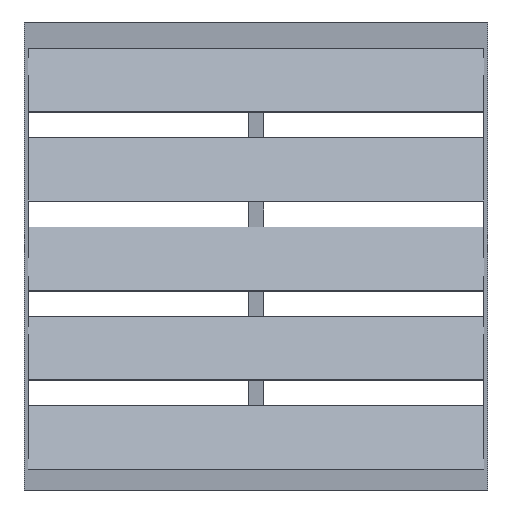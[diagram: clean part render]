
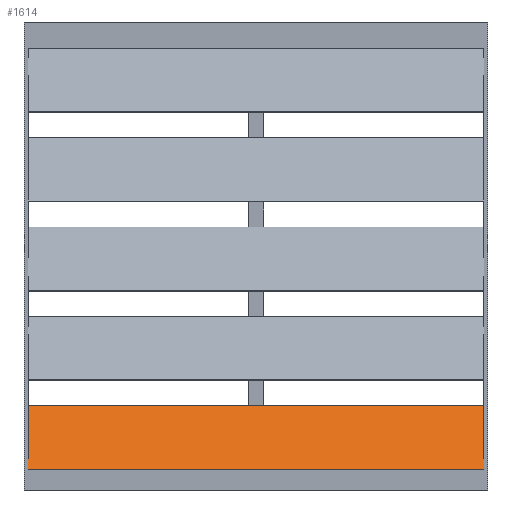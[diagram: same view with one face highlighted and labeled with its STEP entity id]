
A CAD part, front view. The second image highlights one B-rep face of the part: STEP entity #1614.
In plain terms, the highlighted planar face has unit normal (0, -0.707, 0.707).
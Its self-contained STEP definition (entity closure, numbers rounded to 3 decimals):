
#68=FACE_OUTER_BOUND('',#144,.T.);
#144=EDGE_LOOP('',(#1076,#1077,#1078,#1079,#1080,#1081,#1082,#1083));
#236=LINE('',#2247,#451);
#240=LINE('',#2254,#455);
#242=LINE('',#2259,#457);
#246=LINE('',#2266,#461);
#247=LINE('',#2268,#462);
#248=LINE('',#2270,#463);
#249=LINE('',#2271,#464);
#250=LINE('',#2272,#465);
#451=VECTOR('',#1813,10.);
#455=VECTOR('',#1819,10.);
#457=VECTOR('',#1823,10.);
#461=VECTOR('',#1829,10.);
#462=VECTOR('',#1832,10.);
#463=VECTOR('',#1835,10.);
#464=VECTOR('',#1836,10.);
#465=VECTOR('',#1837,10.);
#665=VERTEX_POINT('',#2244);
#666=VERTEX_POINT('',#2246);
#667=VERTEX_POINT('',#2250);
#668=VERTEX_POINT('',#2252);
#669=VERTEX_POINT('',#2256);
#670=VERTEX_POINT('',#2258);
#671=VERTEX_POINT('',#2262);
#672=VERTEX_POINT('',#2264);
#814=EDGE_CURVE('',#666,#665,#236,.T.);
#818=EDGE_CURVE('',#667,#668,#240,.T.);
#820=EDGE_CURVE('',#670,#669,#242,.T.);
#824=EDGE_CURVE('',#671,#672,#246,.T.);
#825=EDGE_CURVE('',#668,#670,#247,.T.);
#826=EDGE_CURVE('',#666,#669,#248,.T.);
#827=EDGE_CURVE('',#671,#665,#249,.T.);
#828=EDGE_CURVE('',#667,#672,#250,.T.);
#1076=ORIENTED_EDGE('',*,*,#825,.T.);
#1077=ORIENTED_EDGE('',*,*,#820,.T.);
#1078=ORIENTED_EDGE('',*,*,#826,.F.);
#1079=ORIENTED_EDGE('',*,*,#814,.T.);
#1080=ORIENTED_EDGE('',*,*,#827,.F.);
#1081=ORIENTED_EDGE('',*,*,#824,.T.);
#1082=ORIENTED_EDGE('',*,*,#828,.F.);
#1083=ORIENTED_EDGE('',*,*,#818,.T.);
#1546=PLANE('',#1698);
#1614=ADVANCED_FACE('',(#68),#1546,.T.);
#1698=AXIS2_PLACEMENT_3D('',#2269,#1833,#1834);
#1813=DIRECTION('',(-1.,0.,0.));
#1819=DIRECTION('',(0.,-0.707,-0.707));
#1823=DIRECTION('',(0.,0.707,0.707));
#1829=DIRECTION('',(-1.,0.,0.));
#1832=DIRECTION('',(1.,0.,0.));
#1833=DIRECTION('center_axis',(0.,-0.707,
0.707));
#1834=DIRECTION('ref_axis',(1.,0.,0.));
#1835=DIRECTION('',(0.,-0.707,-0.707));
#1836=DIRECTION('',(1.,0.,0.));
#1837=DIRECTION('',(0.,0.707,0.707));
#2244=CARTESIAN_POINT('',(14.6,0.,-283.5));
#2246=CARTESIAN_POINT('',(431.,0.,-283.5));
#2247=CARTESIAN_POINT('',(431.,0.,-283.5));
#2250=CARTESIAN_POINT('',(-431.,-20.,-303.5));
#2252=CARTESIAN_POINT('',(-431.,-119.501,-403.001));
#2254=CARTESIAN_POINT('',(-431.,0.,-283.5));
#2256=CARTESIAN_POINT('',(431.,-20.,-303.5));
#2258=CARTESIAN_POINT('',(431.,-119.501,-403.001));
#2259=CARTESIAN_POINT('',(431.,-119.501,-403.001));
#2262=CARTESIAN_POINT('',(-14.6,0.,-283.5));
#2264=CARTESIAN_POINT('',(-431.,0.,-283.5));
#2266=CARTESIAN_POINT('',(431.,0.,-283.5));
#2268=CARTESIAN_POINT('',(-431.,-119.501,-403.001));
#2269=CARTESIAN_POINT('Origin',(0.,-59.751,
-343.251));
#2270=CARTESIAN_POINT('',(431.,134.125,-149.375));
#2271=CARTESIAN_POINT('',(-222.8,0.,-283.5));
#2272=CARTESIAN_POINT('',(-431.,-62.125,-345.625));
